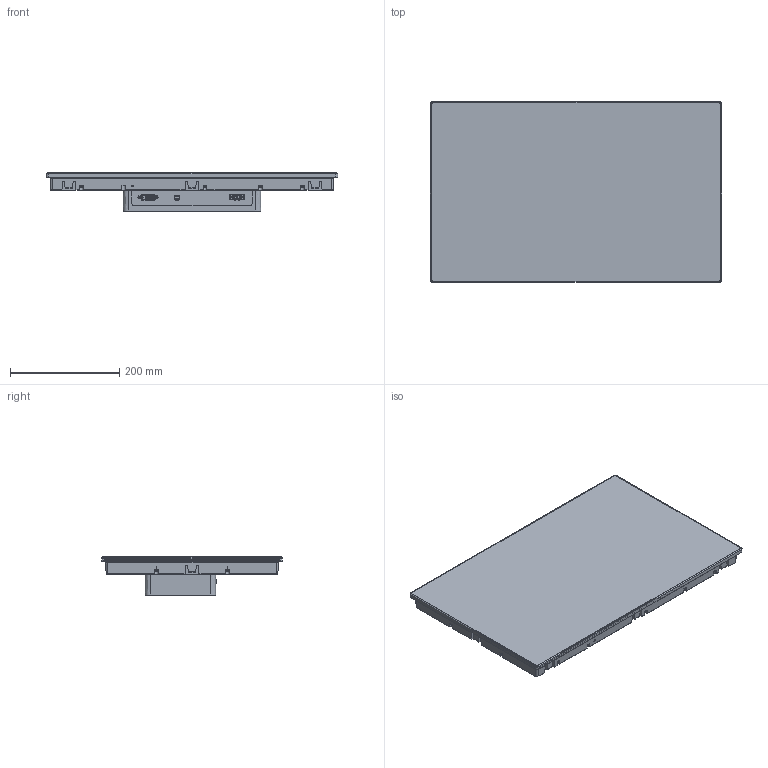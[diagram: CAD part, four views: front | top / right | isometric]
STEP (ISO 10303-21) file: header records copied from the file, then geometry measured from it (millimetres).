
FILE_DESCRIPTION((''),'2;1');
FILE_NAME('SIMPL_ASM_1_ASM','2021-06-02T10:17:32',('danae.lavaud'),(''),'CREO PARAMETRIC BY PTC INC, 2018260','CREO PARAMETRIC BY PTC INC, 2018260','');
FILE_SCHEMA(('CONFIG_CONTROL_DESIGN'));
Products named in the file (13): PRT0001_1_1_1_1; HUA1256901_1_1_1_1_1_1; HUA1145401_1_1_1_1_1_1; ASM0005_ASM_1_ASM_1_ASM_1_ASM_1_ASM; DISPLAY_ADAPTER_20200611_1_2_10; DISPLAY_ADAPTER_20200611_1_2_12; DISPLAY_ADAPTER_20200611_1_2_11_ASM; BROCHE_ASM_1_ASM_1_ASM_1_ASM_1__ASM; PRT0001_1_1_1_1_1_1_7_1_1_1_1; SCREW_MSC_XREC_PAN_M3X36-116735; ASM0005_ASM_1_ASM_1_ASM_1_ASM_3_ASM; ASM0005_ASM_1_ASM; SIMPL_ASM_1_ASM
Assembly tree (41 placements, depth 5):
  SIMPL_ASM_1_ASM
    PRT0001_1_1_1_1
    ASM0005_ASM_1_ASM_1_ASM_1_ASM_1_ASM
      HUA1256901_1_1_1_1_1_1  x18
      HUA1145401_1_1_1_1_1_1  x8
    ASM0005_ASM_1_ASM
      BROCHE_ASM_1_ASM_1_ASM_1_ASM_1__ASM
        DISPLAY_ADAPTER_20200611_1_2_11_ASM
          DISPLAY_ADAPTER_20200611_1_2_10
          DISPLAY_ADAPTER_20200611_1_2_12
      PRT0001_1_1_1_1_1_1_7_1_1_1_1
      ASM0005_ASM_1_ASM_1_ASM_1_ASM_3_ASM
        SCREW_MSC_XREC_PAN_M3X36-116735  x6
Bounding box: 532.6 x 330.6 x 69.5 mm (x, y, z)
Volume: 6409025.8 mm3; surface area: 552145.2 mm2
Topology: 36 solids, 66 shells, 4392 faces, 12512 edges, 8092 vertices
Faces by surface type: plane 2503, cylinder 1337, cone 296, torus 144, sphere 64, extrusion 36, bspline 12
Entity records: 114238 total; most frequent: CARTESIAN_POINT 24635, ORIENTED_EDGE 19368, DIRECTION 17742, EDGE_CURVE 9704, VECTOR 7440, LINE 7404, VERTEX_POINT 6340, AXIS2_PLACEMENT_3D 5151
